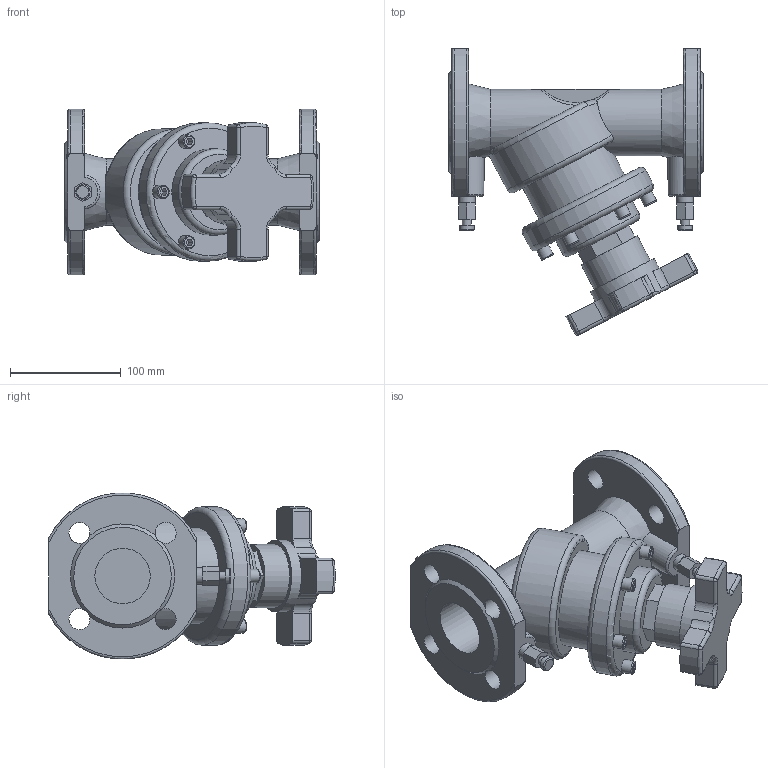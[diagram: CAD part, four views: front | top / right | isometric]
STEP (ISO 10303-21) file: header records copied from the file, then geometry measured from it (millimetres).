
FILE_DESCRIPTION(('STEP AP203'), '1');
FILE_NAME('3D_347-050-16', '', ('UNSPECIFIED'), ('UNSPECIFIED'), 'C3D Converter', 'C3D Toolkit', '');
FILE_SCHEMA(('CONFIG_CONTROL_DESIGN'));
Length unit declared in the file: millimetre
Bounding box: 230 x 258.38 x 149.73 mm (x, y, z)
Volume: 2052494.3 mm3; surface area: 210160.5 mm2
Topology: 1 solids, 1 shells, 247 faces, 680 edges, 446 vertices
Faces by surface type: plane 125, cylinder 66, torus 36, sphere 8, bspline 8, cone 4
Full cylindrical faces by diameter (mm): 8 x2, 12 x6, 13 x2, 15 x2, 19 x8, 50 x2, 57 x1, 60 x1, 65 x1, 78 x1, 87 x1, 125 x1
Entity records: 18780 total; most frequent: CARTESIAN_POINT 10570, DIRECTION 1305, ORIENTED_EDGE 1268, EDGE_CURVE 634, AXIS2_PLACEMENT_3D 524, VERTEX_POINT 445, EDGE_LOOP 319, FACE_BOUND 309
